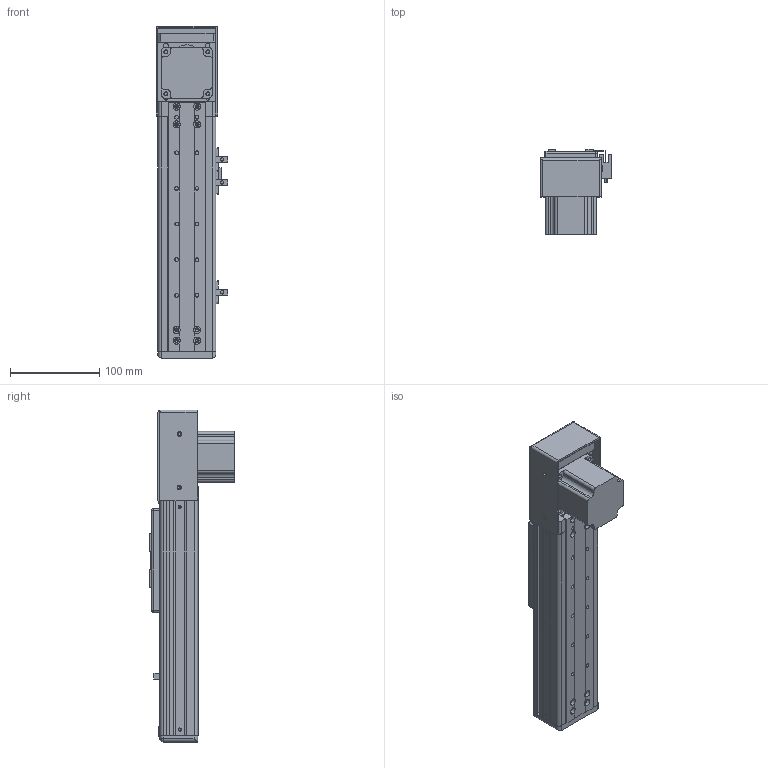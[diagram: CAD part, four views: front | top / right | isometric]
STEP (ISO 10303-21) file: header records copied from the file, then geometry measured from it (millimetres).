
FILE_DESCRIPTION (( 'STEP AP203' ), '1' );
FILE_NAME ('RY60F-T-350-DK.SLDASM_100.step', '2021-03-02T00:56:21', ( '盈信电脑' ), ( '东莞市道滘镇水果街19号' ), 'SwSTEP 2.0', 'SolidWorks 2012', '' );
FILE_SCHEMA (( 'CONFIG_CONTROL_DESIGN' ));
Length unit declared in the file: millimetre
Products named in the file (19): RY60F-浮动端同步轮支撑座; RY60F-滅鳥詩え盓殤; RY60F-肮祭湍臏賑輸; RY60F-T-狟殏欶; RY60F-T-350-DK.SLDASM_100; 57祭輛萇儂; RY60F-T-下折同步带拉紧板; RY60F-肮祭湍揤輸2; RY60F-T-57萇儂奻殏假蚾啣; RY60F-肮祭湍揤輸; RY60F-350-肮祭湍滅鳥詩え-DK_100; 覜茼ん672; 滅袉蝶18-24; RY50F-350-MR15W絳寢-DK_100; RY60F-350肮祭湍俋褲-DK_100; RY60F-T-下折57电机端同步轮座; RY60F-祥凄詩滅鳥裔; RY60F-嫖萇羲壽結え; RY50-60詩湍揤啣
Assembly tree (23 placements, depth 2):
  RY60F-T-350-DK.SLDASM_100
    RY60F-肮祭湍臏賑輸
    RY60F-浮动端同步轮支撑座
    RY60F-滅鳥詩え盓殤
    RY60F-嫖萇羲壽結え
    RY50-60詩湍揤啣  x2
    RY60F-祥凄詩滅鳥裔
    RY60F-T-下折57电机端同步轮座
    RY60F-350肮祭湍俋褲-DK_100  x2
    覜茼ん672  x3
    RY60F-350-肮祭湍滅鳥詩え-DK_100
    RY50F-350-MR15W絳寢-DK_100
    滅袉蝶18-24  x2
    RY60F-T-57萇儂奻殏假蚾啣
    RY60F-T-下折同步带拉紧板
    RY60F-肮祭湍揤輸
    RY60F-肮祭湍揤輸2
    57祭輛萇儂
    RY60F-T-狟殏欶
Bounding box: 80.76 x 96.5 x 373 mm (x, y, z)
Volume: 615090.6 mm3; surface area: 317622.9 mm2
Topology: 23 solids, 23 shells, 1122 faces, 3062 edges, 1964 vertices
Faces by surface type: plane 546, cylinder 495, cone 71, bspline 10
Entity records: 34205 total; most frequent: CARTESIAN_POINT 6241, DIRECTION 5468, ORIENTED_EDGE 5300, EDGE_CURVE 2650, AXIS2_PLACEMENT_3D 1899, VERTEX_POINT 1732, LINE 1670, VECTOR 1670
